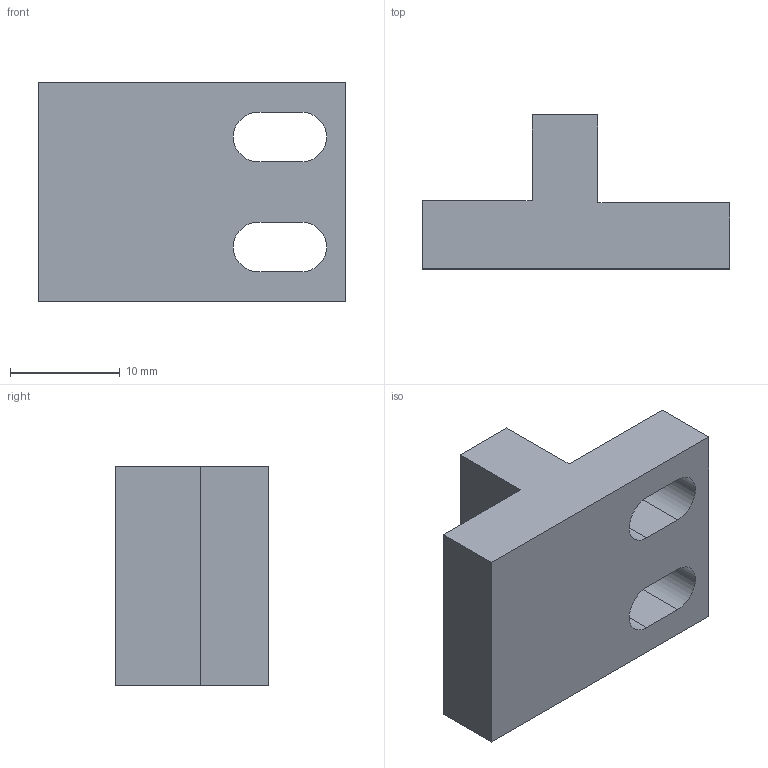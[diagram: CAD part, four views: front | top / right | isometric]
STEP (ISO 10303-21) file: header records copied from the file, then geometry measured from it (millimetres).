
FILE_DESCRIPTION(('CATIA V5 STEP Exchange'),'2;1');
FILE_NAME('G:\够快云库\系统集成开发部\1.部门成员\孙国\工装\气密检测工装\STP\轻卡悬浮阀\GZ-QKQM07_V1 支撑块.stp','2021-08-26T05:04:02+00:00',('none'),('none'),'CATIA Version 5 Release 20 GA (IN-10)','CATIA V5 STEP AP214','none');
FILE_SCHEMA(('AUTOMOTIVE_DESIGN { 1 0 10303 214 1 1 1 1 }'));
Length unit declared in the file: millimetre
Products named in the file (1): 支撑架
Bounding box: 28 x 14 x 20 mm (x, y, z)
Volume: 3953.1 mm3; surface area: 2246 mm2
Topology: 1 solids, 1 shells, 18 faces, 48 edges, 32 vertices
Faces by surface type: plane 14, cylinder 4
Entity records: 582 total; most frequent: CARTESIAN_POINT 99, ORIENTED_EDGE 96, DIRECTION 84, EDGE_CURVE 48, VECTOR 40, LINE 40, VERTEX_POINT 32, AXIS2_PLACEMENT_3D 27
